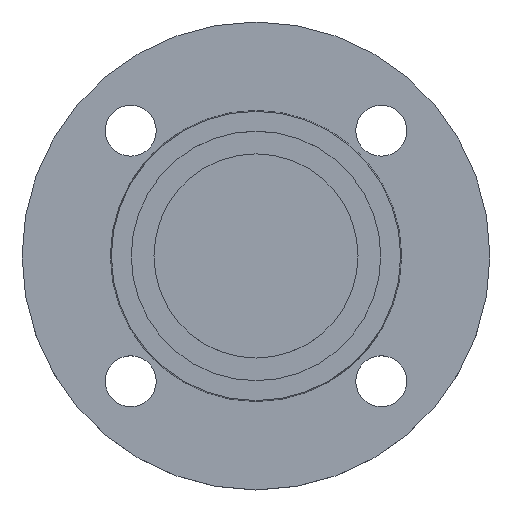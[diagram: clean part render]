
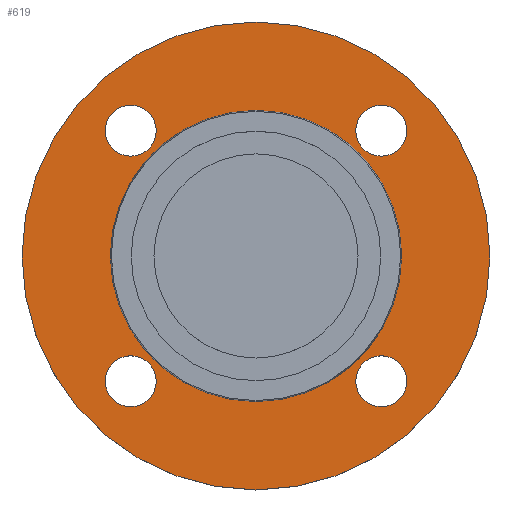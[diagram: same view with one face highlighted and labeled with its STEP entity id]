
A CAD part, top view. The second image highlights one B-rep face of the part: STEP entity #619.
In plain terms, the highlighted planar face has unit normal (0, 0, 1).
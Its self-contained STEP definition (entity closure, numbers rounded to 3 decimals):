
#1 = CARTESIAN_POINT ( 'NONE',  ( 53.194, 44.194, -2. ) ) ;
#4 = AXIS2_PLACEMENT_3D ( 'NONE', #148, #147, #144 ) ;
#12 = CARTESIAN_POINT ( 'NONE',  ( -51.353, 0., -2. ) ) ;
#17 = AXIS2_PLACEMENT_3D ( 'NONE', #174, #172, #171 ) ;
#21 = CARTESIAN_POINT ( 'NONE',  ( -35.194, 44.194, -2. ) ) ;
#23 = CIRCLE ( 'NONE', #277, 9. ) ;
#30 = CARTESIAN_POINT ( 'NONE',  ( 51.353, 0., -2. ) ) ;
#43 = CARTESIAN_POINT ( 'NONE',  ( -82.5, 0., -2. ) ) ;
#50 = CARTESIAN_POINT ( 'NONE',  ( 0., 0., -2. ) ) ;
#51 = DIRECTION ( 'NONE',  ( 0., 0., -1. ) ) ;
#52 = DIRECTION ( 'NONE',  ( -1., 0., 0. ) ) ;
#67 = AXIS2_PLACEMENT_3D ( 'NONE', #89, #86, #84 ) ;
#78 = CARTESIAN_POINT ( 'NONE',  ( 35.194, -44.194, -2. ) ) ;
#81 = CIRCLE ( 'NONE', #95, 82.5 ) ;
#84 = DIRECTION ( 'NONE',  ( 1., 0., 0. ) ) ;
#86 = DIRECTION ( 'NONE',  ( 0., 0., 1. ) ) ;
#89 = CARTESIAN_POINT ( 'NONE',  ( 51.353, 0., -2. ) ) ;
#91 = PLANE ( 'NONE',  #67 ) ;
#92 = FACE_OUTER_BOUND ( 'NONE', #777, .T. ) ;
#95 = AXIS2_PLACEMENT_3D ( 'NONE', #841, #844, #845 ) ;
#99 = VERTEX_POINT ( 'NONE', #840 ) ;
#100 = FACE_BOUND ( 'NONE', #789, .T. ) ;
#101 = FACE_BOUND ( 'NONE', #746, .T. ) ;
#102 = EDGE_CURVE ( 'NONE', #99, #723, #81, .T. ) ;
#103 = FACE_BOUND ( 'NONE', #525, .T. ) ;
#104 = DIRECTION ( 'NONE',  ( 1., 0., 0. ) ) ;
#105 = FACE_BOUND ( 'NONE', #759, .T. ) ;
#107 = FACE_BOUND ( 'NONE', #797, .T. ) ;
#109 = CARTESIAN_POINT ( 'NONE',  ( 44.194, 44.194, -2. ) ) ;
#111 = DIRECTION ( 'NONE',  ( 0., 0., -1. ) ) ;
#121 = AXIS2_PLACEMENT_3D ( 'NONE', #234, #237, #252 ) ;
#144 = DIRECTION ( 'NONE',  ( 1., 0., 0. ) ) ;
#147 = DIRECTION ( 'NONE',  ( 0., 0., -1. ) ) ;
#148 = CARTESIAN_POINT ( 'NONE',  ( 44.194, 44.194, -2. ) ) ;
#153 = AXIS2_PLACEMENT_3D ( 'NONE', #313, #848, #229 ) ;
#167 = CARTESIAN_POINT ( 'NONE',  ( -53.194, -44.194, -2. ) ) ;
#168 = CARTESIAN_POINT ( 'NONE',  ( -35.194, -44.194, -2. ) ) ;
#169 = CARTESIAN_POINT ( 'NONE',  ( 35.194, 44.194, -2. ) ) ;
#171 = DIRECTION ( 'NONE',  ( 1., 0., 0. ) ) ;
#172 = DIRECTION ( 'NONE',  ( 0., 0., -1. ) ) ;
#174 = CARTESIAN_POINT ( 'NONE',  ( -44.194, -44.194, -2. ) ) ;
#205 = CARTESIAN_POINT ( 'NONE',  ( -53.194, 44.194, -2. ) ) ;
#224 = CIRCLE ( 'NONE', #4, 9. ) ;
#228 = CARTESIAN_POINT ( 'NONE',  ( -44.194, 44.194, -2. ) ) ;
#229 = DIRECTION ( 'NONE',  ( -1., 0., 0. ) ) ;
#231 = CIRCLE ( 'NONE', #243, 82.5 ) ;
#234 = CARTESIAN_POINT ( 'NONE',  ( -44.194, 44.194, -2. ) ) ;
#237 = DIRECTION ( 'NONE',  ( 0., 0., -1. ) ) ;
#243 = AXIS2_PLACEMENT_3D ( 'NONE', #50, #51, #52 ) ;
#246 = DIRECTION ( 'NONE',  ( 0., 0., -1. ) ) ;
#248 = EDGE_CURVE ( 'NONE', #723, #99, #231, .T. ) ;
#250 = DIRECTION ( 'NONE',  ( 1., 0., 0. ) ) ;
#251 = CIRCLE ( 'NONE', #17, 9. ) ;
#252 = DIRECTION ( 'NONE',  ( 1., 0., 0. ) ) ;
#259 = CARTESIAN_POINT ( 'NONE',  ( 0., 0., -2. ) ) ;
#277 = AXIS2_PLACEMENT_3D ( 'NONE', #228, #246, #250 ) ;
#292 = CIRCLE ( 'NONE', #804, 9. ) ;
#309 = CIRCLE ( 'NONE', #312, 9. ) ;
#310 = EDGE_CURVE ( 'NONE', #634, #778, #309, .T. ) ;
#312 = AXIS2_PLACEMENT_3D ( 'NONE', #423, #424, #425 ) ;
#313 = CARTESIAN_POINT ( 'NONE',  ( 0., 0., -2. ) ) ;
#329 = CIRCLE ( 'NONE', #712, 9. ) ;
#372 = AXIS2_PLACEMENT_3D ( 'NONE', #109, #111, #104 ) ;
#374 = EDGE_CURVE ( 'NONE', #463, #748, #23, .T. ) ;
#401 = EDGE_CURVE ( 'NONE', #545, #547, #329, .T. ) ;
#423 = CARTESIAN_POINT ( 'NONE',  ( 44.194, -44.194, -2. ) ) ;
#424 = DIRECTION ( 'NONE',  ( 0., 0., -1. ) ) ;
#425 = DIRECTION ( 'NONE',  ( 1., 0., 0. ) ) ;
#443 = CARTESIAN_POINT ( 'NONE',  ( 44.194, -44.194, -2. ) ) ;
#446 = CIRCLE ( 'NONE', #693, 51.353 ) ;
#448 = CARTESIAN_POINT ( 'NONE',  ( 53.194, -44.194, -2. ) ) ;
#450 = CIRCLE ( 'NONE', #372, 9. ) ;
#463 = VERTEX_POINT ( 'NONE', #205 ) ;
#483 = DIRECTION ( 'NONE',  ( 1., 0., 0. ) ) ;
#484 = CIRCLE ( 'NONE', #121, 9. ) ;
#493 = DIRECTION ( 'NONE',  ( 0., 0., -1. ) ) ;
#503 = EDGE_CURVE ( 'NONE', #748, #463, #484, .T. ) ;
#512 = EDGE_CURVE ( 'NONE', #747, #803, #446, .T. ) ;
#525 = EDGE_LOOP ( 'NONE', ( #640, #641 ) ) ;
#526 = CIRCLE ( 'NONE', #153, 51.353 ) ;
#528 = CARTESIAN_POINT ( 'NONE',  ( -44.194, -44.194, -2. ) ) ;
#529 = DIRECTION ( 'NONE',  ( 1., 0., 0. ) ) ;
#531 = DIRECTION ( 'NONE',  ( -1., 0., 0. ) ) ;
#533 = DIRECTION ( 'NONE',  ( 0., 0., -1. ) ) ;
#537 = EDGE_CURVE ( 'NONE', #547, #545, #251, .T. ) ;
#542 = VERTEX_POINT ( 'NONE', #169 ) ;
#545 = VERTEX_POINT ( 'NONE', #168 ) ;
#547 = VERTEX_POINT ( 'NONE', #167 ) ;
#549 = DIRECTION ( 'NONE',  ( 0., 0., -1. ) ) ;
#572 = EDGE_CURVE ( 'NONE', #742, #542, #224, .T. ) ;
#613 = EDGE_CURVE ( 'NONE', #542, #742, #450, .T. ) ;
#619 = ADVANCED_FACE ( 'NONE', ( #105, #107, #100, #101, #103, #92 ), #91, .T. ) ;
#624 = ORIENTED_EDGE ( 'NONE', *, *, #908, .T. ) ;
#625 = ORIENTED_EDGE ( 'NONE', *, *, #310, .T. ) ;
#626 = ORIENTED_EDGE ( 'NONE', *, *, #401, .T. ) ;
#627 = ORIENTED_EDGE ( 'NONE', *, *, #537, .T. ) ;
#629 = ORIENTED_EDGE ( 'NONE', *, *, #503, .T. ) ;
#633 = ORIENTED_EDGE ( 'NONE', *, *, #374, .T. ) ;
#634 = VERTEX_POINT ( 'NONE', #78 ) ;
#638 = ORIENTED_EDGE ( 'NONE', *, *, #572, .T. ) ;
#639 = ORIENTED_EDGE ( 'NONE', *, *, #613, .T. ) ;
#640 = ORIENTED_EDGE ( 'NONE', *, *, #512, .T. ) ;
#641 = ORIENTED_EDGE ( 'NONE', *, *, #786, .T. ) ;
#642 = ORIENTED_EDGE ( 'NONE', *, *, #102, .F. ) ;
#644 = ORIENTED_EDGE ( 'NONE', *, *, #248, .F. ) ;
#693 = AXIS2_PLACEMENT_3D ( 'NONE', #259, #493, #531 ) ;
#712 = AXIS2_PLACEMENT_3D ( 'NONE', #528, #533, #529 ) ;
#723 = VERTEX_POINT ( 'NONE', #43 ) ;
#742 = VERTEX_POINT ( 'NONE', #1 ) ;
#746 = EDGE_LOOP ( 'NONE', ( #638, #639 ) ) ;
#747 = VERTEX_POINT ( 'NONE', #12 ) ;
#748 = VERTEX_POINT ( 'NONE', #21 ) ;
#759 = EDGE_LOOP ( 'NONE', ( #624, #625 ) ) ;
#777 = EDGE_LOOP ( 'NONE', ( #642, #644 ) ) ;
#778 = VERTEX_POINT ( 'NONE', #448 ) ;
#786 = EDGE_CURVE ( 'NONE', #803, #747, #526, .T. ) ;
#789 = EDGE_LOOP ( 'NONE', ( #629, #633 ) ) ;
#797 = EDGE_LOOP ( 'NONE', ( #626, #627 ) ) ;
#803 = VERTEX_POINT ( 'NONE', #30 ) ;
#804 = AXIS2_PLACEMENT_3D ( 'NONE', #443, #549, #483 ) ;
#840 = CARTESIAN_POINT ( 'NONE',  ( 82.5, 0., -2. ) ) ;
#841 = CARTESIAN_POINT ( 'NONE',  ( 0., 0., -2. ) ) ;
#844 = DIRECTION ( 'NONE',  ( 0., 0., -1. ) ) ;
#845 = DIRECTION ( 'NONE',  ( -1., 0., 0. ) ) ;
#848 = DIRECTION ( 'NONE',  ( 0., 0., -1. ) ) ;
#908 = EDGE_CURVE ( 'NONE', #778, #634, #292, .T. ) ;
